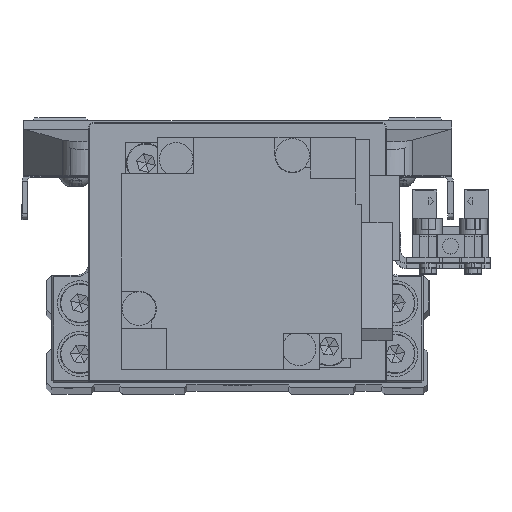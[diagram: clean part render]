
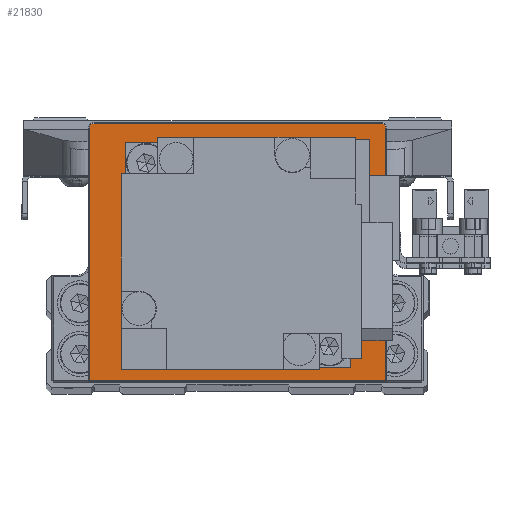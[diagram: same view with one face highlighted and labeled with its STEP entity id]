
A CAD part, top view. The second image highlights one B-rep face of the part: STEP entity #21830.
In plain terms, the highlighted planar face has unit normal (0, 0, 1) as drawn and (0, -1, 0) by its records, which use the part's own axes.
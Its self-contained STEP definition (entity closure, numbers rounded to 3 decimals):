
#780 = VECTOR ( 'NONE', #33471, 1000. ) ;
#1374 = DIRECTION ( 'NONE',  ( 0., -1., 0. ) ) ;
#1784 = LINE ( 'NONE', #14046, #30859 ) ;
#2235 = CARTESIAN_POINT ( 'NONE',  ( -25.5, -4., 22. ) ) ;
#2316 = ORIENTED_EDGE ( 'NONE', *, *, #5338, .T. ) ;
#2323 = DIRECTION ( 'NONE',  ( 0., 0., -1. ) ) ;
#2679 = CARTESIAN_POINT ( 'NONE',  ( 25.5, -4., 22.8 ) ) ;
#3311 = CIRCLE ( 'NONE', #25712, 0.8 ) ;
#4145 = VECTOR ( 'NONE', #29166, 1000. ) ;
#4407 = LINE ( 'NONE', #16639, #27115 ) ;
#4420 = FACE_OUTER_BOUND ( 'NONE', #26261, .T. ) ;
#4735 = LINE ( 'NONE', #16970, #4145 ) ;
#5338 = EDGE_CURVE ( 'NONE', #36301, #31136, #4407, .T. ) ;
#5849 = EDGE_CURVE ( 'NONE', #31136, #20341, #4735, .T. ) ;
#9040 = LINE ( 'NONE', #21253, #780 ) ;
#10191 = AXIS2_PLACEMENT_3D ( 'NONE', #2235, #14484, #26688 ) ;
#10589 = CARTESIAN_POINT ( 'NONE',  ( 26.3, -4., -22.8 ) ) ;
#10871 = CARTESIAN_POINT ( 'NONE',  ( 26.3, -4., 22. ) ) ;
#11811 = EDGE_CURVE ( 'NONE', #19000, #15071, #27437, .T. ) ;
#12386 = CARTESIAN_POINT ( 'NONE',  ( -26.3, -4., 22. ) ) ;
#12889 = ORIENTED_EDGE ( 'NONE', *, *, #38586, .T. ) ;
#13636 = DIRECTION ( 'NONE',  ( 0., 0., -1. ) ) ;
#14046 = CARTESIAN_POINT ( 'NONE',  ( -26.3, -4., -23. ) ) ;
#14484 = DIRECTION ( 'NONE',  ( 0., -1., 0. ) ) ;
#15071 = VERTEX_POINT ( 'NONE', #12386 ) ;
#16639 = CARTESIAN_POINT ( 'NONE',  ( 26.5, -4., -22.8 ) ) ;
#16649 = PLANE ( 'NONE',  #37690 ) ;
#16666 = ORIENTED_EDGE ( 'NONE', *, *, #38074, .T. ) ;
#16970 = CARTESIAN_POINT ( 'NONE',  ( 26.3, -4., 22. ) ) ;
#17591 = CARTESIAN_POINT ( 'NONE',  ( 25.5, -4., 22. ) ) ;
#18455 = VERTEX_POINT ( 'NONE', #2679 ) ;
#19000 = VERTEX_POINT ( 'NONE', #31081 ) ;
#20341 = VERTEX_POINT ( 'NONE', #10871 ) ;
#20542 = ORIENTED_EDGE ( 'NONE', *, *, #11811, .T. ) ;
#21253 = CARTESIAN_POINT ( 'NONE',  ( -25.5, -4., 22.8 ) ) ;
#21830 = ADVANCED_FACE ( 'NONE', ( #4420 ), #16649, .T. ) ;
#25712 = AXIS2_PLACEMENT_3D ( 'NONE', #17591, #29780, #2323 ) ;
#26245 = DIRECTION ( 'NONE',  ( 0., 0., -1. ) ) ;
#26261 = EDGE_LOOP ( 'NONE', ( #2316, #28331, #12889, #33401, #20542, #16666 ) ) ;
#26688 = DIRECTION ( 'NONE',  ( 0., 0., -1. ) ) ;
#27115 = VECTOR ( 'NONE', #28828, 1000. ) ;
#27437 = CIRCLE ( 'NONE', #10191, 0.8 ) ;
#28331 = ORIENTED_EDGE ( 'NONE', *, *, #5849, .T. ) ;
#28828 = DIRECTION ( 'NONE',  ( 1., 0., 0. ) ) ;
#28840 = CARTESIAN_POINT ( 'NONE',  ( 0., -4., 0. ) ) ;
#29166 = DIRECTION ( 'NONE',  ( 0., 0., 1. ) ) ;
#29780 = DIRECTION ( 'NONE',  ( 0., -1., 0. ) ) ;
#30442 = CARTESIAN_POINT ( 'NONE',  ( -26.3, -4., -22.8 ) ) ;
#30859 = VECTOR ( 'NONE', #26245, 1000. ) ;
#31081 = CARTESIAN_POINT ( 'NONE',  ( -25.5, -4., 22.8 ) ) ;
#31136 = VERTEX_POINT ( 'NONE', #10589 ) ;
#33401 = ORIENTED_EDGE ( 'NONE', *, *, #37783, .T. ) ;
#33471 = DIRECTION ( 'NONE',  ( -1., 0., 0. ) ) ;
#36301 = VERTEX_POINT ( 'NONE', #30442 ) ;
#37690 = AXIS2_PLACEMENT_3D ( 'NONE', #28840, #1374, #13636 ) ;
#37783 = EDGE_CURVE ( 'NONE', #18455, #19000, #9040, .T. ) ;
#38074 = EDGE_CURVE ( 'NONE', #15071, #36301, #1784, .T. ) ;
#38586 = EDGE_CURVE ( 'NONE', #20341, #18455, #3311, .T. ) ;
